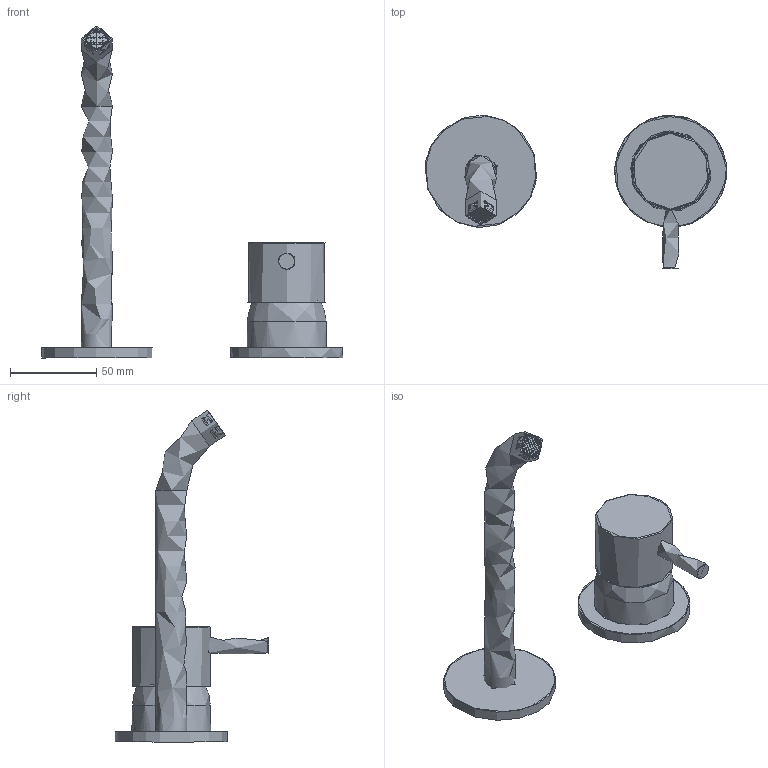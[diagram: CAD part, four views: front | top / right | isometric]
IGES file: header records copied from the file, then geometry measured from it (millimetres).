
Global section: file name: PR52AH202; native system: Autodesk Inventor 2017; preprocessor: unknown; author: PIZZERA; date: 20210408.143940; units: millimetre
Bounding box: 174.67 x 88.99 x 192.38 mm (x, y, z)
Volume: 187174.6 mm3; surface area: 38296.1 mm2
Topology: 2 solids, 2 shells, 674 faces, 1678 edges, 1012 vertices
Faces by surface type: bspline 674
